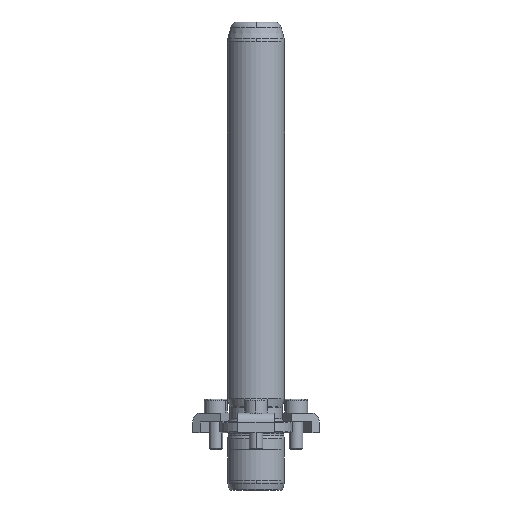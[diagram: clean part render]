
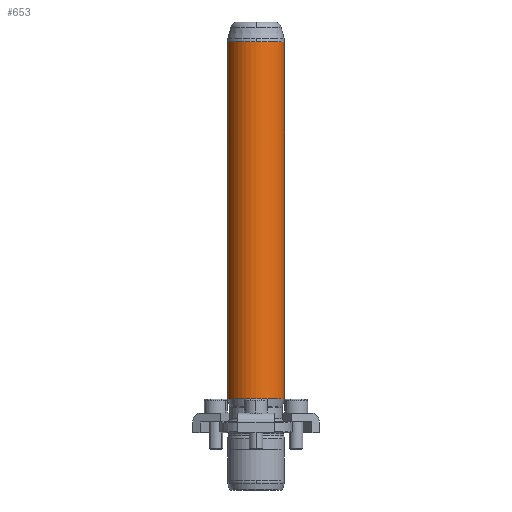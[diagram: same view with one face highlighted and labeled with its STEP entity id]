
A CAD part, front view. The second image highlights one B-rep face of the part: STEP entity #653.
In plain terms, the highlighted cylindrical face has radius 12.5 mm (diameter 25 mm), a partial arc.
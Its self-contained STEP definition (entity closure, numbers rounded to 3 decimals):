
#566=CARTESIAN_POINT('',(0.0,-12.5,171.342));
#567=VERTEX_POINT('',#566);
#594=CARTESIAN_POINT('',(-12.5,0.,171.342));
#595=VERTEX_POINT('',#594);
#603=CARTESIAN_POINT('',(0.0,0.,171.342));
#604=DIRECTION('',(0.0,0.0,1.0));
#605=DIRECTION('',(1.0,0.0,0.0));
#606=AXIS2_PLACEMENT_3D('',#603,#604,#605);
#607=CIRCLE('',#606,12.5);
#608=EDGE_CURVE('',#595,#567,#607,.T.);
#613=CARTESIAN_POINT('',(0.0,0.,93.171));
#614=DIRECTION('',(0.0,0.,1.0));
#615=DIRECTION('',(1.0,0.0,0.0));
#616=AXIS2_PLACEMENT_3D('',#613,#614,#615);
#617=CYLINDRICAL_SURFACE('',#616,12.5);
#618=CARTESIAN_POINT('',(12.5,0.,171.342));
#619=VERTEX_POINT('',#618);
#620=CARTESIAN_POINT('',(12.5,0.,15.0));
#621=VERTEX_POINT('',#620);
#622=CARTESIAN_POINT('',(12.5,0.,171.342));
#623=DIRECTION('',(0.0,0.0,-1.0));
#624=VECTOR('',#623,156.342);
#625=LINE('',#622,#624);
#626=EDGE_CURVE('',#619,#621,#625,.T.);
#627=ORIENTED_EDGE('',*,*,#626,.F.);
#628=CARTESIAN_POINT('',(0.0,0.,171.342));
#629=DIRECTION('',(0.0,0.0,1.0));
#630=DIRECTION('',(1.0,0.0,0.0));
#631=AXIS2_PLACEMENT_3D('',#628,#629,#630);
#632=CIRCLE('',#631,12.5);
#633=EDGE_CURVE('',#567,#619,#632,.T.);
#634=ORIENTED_EDGE('',*,*,#633,.F.);
#635=ORIENTED_EDGE('',*,*,#608,.F.);
#636=CARTESIAN_POINT('',(-12.5,0.,15.0));
#637=VERTEX_POINT('',#636);
#638=CARTESIAN_POINT('',(-12.5,0.,171.342));
#639=DIRECTION('',(0.0,0.0,-1.0));
#640=VECTOR('',#639,156.342);
#641=LINE('',#638,#640);
#642=EDGE_CURVE('',#595,#637,#641,.T.);
#643=ORIENTED_EDGE('',*,*,#642,.T.);
#644=CARTESIAN_POINT('',(0.0,0.,15.0));
#645=DIRECTION('',(0.0,0.0,1.0));
#646=DIRECTION('',(1.0,0.0,0.0));
#647=AXIS2_PLACEMENT_3D('',#644,#645,#646);
#648=CIRCLE('',#647,12.5);
#649=EDGE_CURVE('',#637,#621,#648,.T.);
#650=ORIENTED_EDGE('',*,*,#649,.T.);
#651=EDGE_LOOP('',(#627,#634,#635,#643,#650));
#652=FACE_OUTER_BOUND('',#651,.T.);
#653=ADVANCED_FACE('',(#652),#617,.T.);
